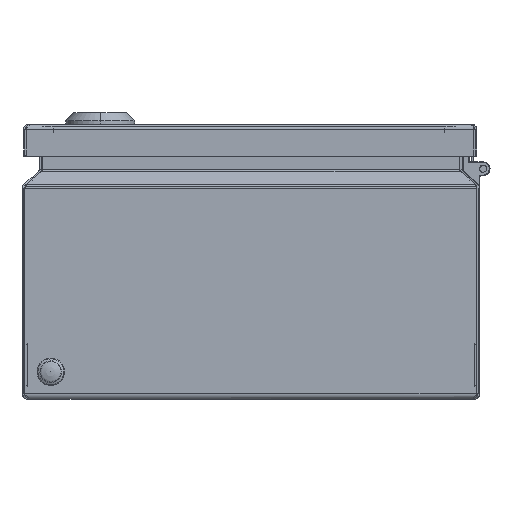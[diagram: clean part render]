
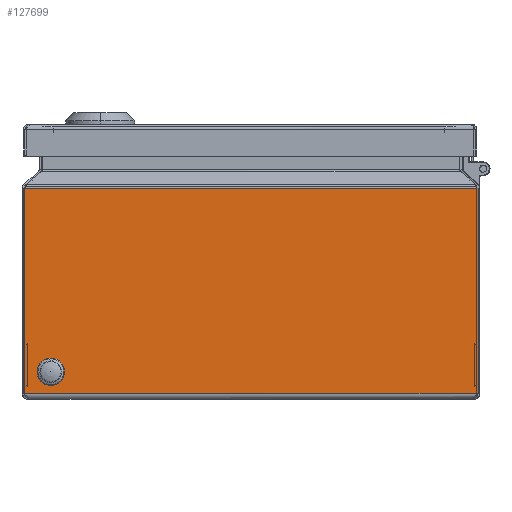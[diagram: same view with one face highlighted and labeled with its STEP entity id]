
A CAD part, front view. The second image highlights one B-rep face of the part: STEP entity #127699.
In plain terms, the highlighted planar face has unit normal (0, -1, 0).
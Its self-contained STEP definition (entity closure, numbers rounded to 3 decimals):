
#1987 = EDGE_LOOP ( 'NONE', ( #12989, #19471, #122645, #98711, #44774, #101054, #51759, #40665 ) ) ;
#5369 = DIRECTION ( 'NONE',  ( 0., 1., 0. ) ) ;
#8248 = CARTESIAN_POINT ( 'NONE',  ( 48.445, -200., -48.445 ) ) ;
#10430 = VERTEX_POINT ( 'NONE', #45931 ) ;
#10777 = EDGE_CURVE ( 'NONE', #33433, #87282, #112506, .T. ) ;
#11533 = EDGE_LOOP ( 'NONE', ( #45973, #12384 ) ) ;
#12384 = ORIENTED_EDGE ( 'NONE', *, *, #127869, .F. ) ;
#12989 = ORIENTED_EDGE ( 'NONE', *, *, #120602, .F. ) ;
#13309 = LINE ( 'NONE', #65087, #114745 ) ;
#14266 = VERTEX_POINT ( 'NONE', #21195 ) ;
#19471 = ORIENTED_EDGE ( 'NONE', *, *, #10777, .T. ) ;
#20826 = LINE ( 'NONE', #92371, #98376 ) ;
#21195 = CARTESIAN_POINT ( 'NONE',  ( -87.4, -200., 16.5 ) ) ;
#23169 = EDGE_CURVE ( 'NONE', #42394, #34693, #124125, .T. ) ;
#28553 = PLANE ( 'NONE',  #104415 ) ;
#29453 = VECTOR ( 'NONE', #123401, 1000. ) ;
#29998 = CARTESIAN_POINT ( 'NONE',  ( 98.623, -200., 92.119 ) ) ;
#30124 = VECTOR ( 'NONE', #32911, 1000. ) ;
#30735 = CARTESIAN_POINT ( 'NONE',  ( -98.623, -200., 92.119 ) ) ;
#32784 = CARTESIAN_POINT ( 'NONE',  ( -99.291, -200., 2.4 ) ) ;
#32911 = DIRECTION ( 'NONE',  ( -1., 0., 0. ) ) ;
#33433 = VERTEX_POINT ( 'NONE', #117519 ) ;
#34464 = DIRECTION ( 'NONE',  ( -1., 0., 0. ) ) ;
#34693 = VERTEX_POINT ( 'NONE', #30735 ) ;
#37409 = FACE_BOUND ( 'NONE', #11533, .T. ) ;
#38109 = VECTOR ( 'NONE', #60777, 1000. ) ;
#38742 = CARTESIAN_POINT ( 'NONE',  ( 2100., -200., 92.119 ) ) ;
#39071 = EDGE_CURVE ( 'NONE', #122287, #34693, #13309, .T. ) ;
#39205 = CIRCLE ( 'NONE', #43444, 4.5 ) ;
#39360 = VECTOR ( 'NONE', #40993, 1000. ) ;
#40665 = ORIENTED_EDGE ( 'NONE', *, *, #119364, .F. ) ;
#40993 = DIRECTION ( 'NONE',  ( 0., 0., 1. ) ) ;
#42394 = VERTEX_POINT ( 'NONE', #117706 ) ;
#43444 = AXIS2_PLACEMENT_3D ( 'NONE', #128563, #56310, #118393 ) ;
#44774 = ORIENTED_EDGE ( 'NONE', *, *, #39071, .T. ) ;
#45462 = CARTESIAN_POINT ( 'NONE',  ( 2100., -200., 2.4 ) ) ;
#45566 = CARTESIAN_POINT ( 'NONE',  ( 99.4, -200., 2.509 ) ) ;
#45693 = CARTESIAN_POINT ( 'NONE',  ( -99.4, -200., 2.509 ) ) ;
#45931 = CARTESIAN_POINT ( 'NONE',  ( -87.4, -200., 7.5 ) ) ;
#45973 = ORIENTED_EDGE ( 'NONE', *, *, #134581, .F. ) ;
#47576 = DIRECTION ( 'NONE',  ( 0., 0., -1. ) ) ;
#48490 = VERTEX_POINT ( 'NONE', #32784 ) ;
#51759 = ORIENTED_EDGE ( 'NONE', *, *, #129974, .F. ) ;
#51847 = CARTESIAN_POINT ( 'NONE',  ( -99.4, -200., 92.119 ) ) ;
#53871 = LINE ( 'NONE', #134339, #39360 ) ;
#56310 = DIRECTION ( 'NONE',  ( 0., -1., 0. ) ) ;
#60777 = DIRECTION ( 'NONE',  ( 1., 0., 0. ) ) ;
#60874 = CARTESIAN_POINT ( 'NONE',  ( 99.4, -200., 92.119 ) ) ;
#65087 = CARTESIAN_POINT ( 'NONE',  ( 2100., -200., 92.119 ) ) ;
#71017 = VERTEX_POINT ( 'NONE', #45693 ) ;
#72262 = LINE ( 'NONE', #122004, #133442 ) ;
#76364 = EDGE_CURVE ( 'NONE', #87282, #127092, #20826, .T. ) ;
#79837 = DIRECTION ( 'NONE',  ( -0.707, 0., 0.707 ) ) ;
#81201 = VECTOR ( 'NONE', #85718, 1000. ) ;
#85718 = DIRECTION ( 'NONE',  ( -1., 0., 0. ) ) ;
#87282 = VERTEX_POINT ( 'NONE', #45566 ) ;
#89030 = DIRECTION ( 'NONE',  ( 0., -1., 0. ) ) ;
#92371 = CARTESIAN_POINT ( 'NONE',  ( 99.4, -200., 2.4 ) ) ;
#94838 = CIRCLE ( 'NONE', #103492, 4.5 ) ;
#98376 = VECTOR ( 'NONE', #102569, 1000. ) ;
#98711 = ORIENTED_EDGE ( 'NONE', *, *, #125595, .T. ) ;
#99415 = FACE_OUTER_BOUND ( 'NONE', #1987, .T. ) ;
#101054 = ORIENTED_EDGE ( 'NONE', *, *, #23169, .F. ) ;
#102569 = DIRECTION ( 'NONE',  ( 0., 0., 1. ) ) ;
#103492 = AXIS2_PLACEMENT_3D ( 'NONE', #120330, #89030, #130543 ) ;
#104415 = AXIS2_PLACEMENT_3D ( 'NONE', #38742, #5369, #47576 ) ;
#112506 = LINE ( 'NONE', #8248, #29453 ) ;
#114008 = LINE ( 'NONE', #60874, #30124 ) ;
#114745 = VECTOR ( 'NONE', #34464, 1000. ) ;
#117519 = CARTESIAN_POINT ( 'NONE',  ( 99.291, -200., 2.4 ) ) ;
#117706 = CARTESIAN_POINT ( 'NONE',  ( -99.4, -200., 92.119 ) ) ;
#118393 = DIRECTION ( 'NONE',  ( 0., 0., -1. ) ) ;
#119364 = EDGE_CURVE ( 'NONE', #48490, #71017, #72262, .T. ) ;
#120330 = CARTESIAN_POINT ( 'NONE',  ( -87.4, -200., 12. ) ) ;
#120384 = CARTESIAN_POINT ( 'NONE',  ( 99.4, -200., 92.119 ) ) ;
#120602 = EDGE_CURVE ( 'NONE', #33433, #48490, #127945, .T. ) ;
#122004 = CARTESIAN_POINT ( 'NONE',  ( -48.445, -200., -48.445 ) ) ;
#122287 = VERTEX_POINT ( 'NONE', #29998 ) ;
#122645 = ORIENTED_EDGE ( 'NONE', *, *, #76364, .T. ) ;
#123401 = DIRECTION ( 'NONE',  ( 0.707, 0., 0.707 ) ) ;
#124125 = LINE ( 'NONE', #51847, #38109 ) ;
#125595 = EDGE_CURVE ( 'NONE', #127092, #122287, #114008, .T. ) ;
#127092 = VERTEX_POINT ( 'NONE', #120384 ) ;
#127699 = ADVANCED_FACE ( 'NONE', ( #99415, #37409 ), #28553, .F. ) ;
#127869 = EDGE_CURVE ( 'NONE', #14266, #10430, #39205, .T. ) ;
#127945 = LINE ( 'NONE', #45462, #81201 ) ;
#128563 = CARTESIAN_POINT ( 'NONE',  ( -87.4, -200., 12. ) ) ;
#129974 = EDGE_CURVE ( 'NONE', #71017, #42394, #53871, .T. ) ;
#130543 = DIRECTION ( 'NONE',  ( 0., 0., -1. ) ) ;
#133442 = VECTOR ( 'NONE', #79837, 1000. ) ;
#134339 = CARTESIAN_POINT ( 'NONE',  ( -99.4, -200., 2.4 ) ) ;
#134581 = EDGE_CURVE ( 'NONE', #10430, #14266, #94838, .T. ) ;
